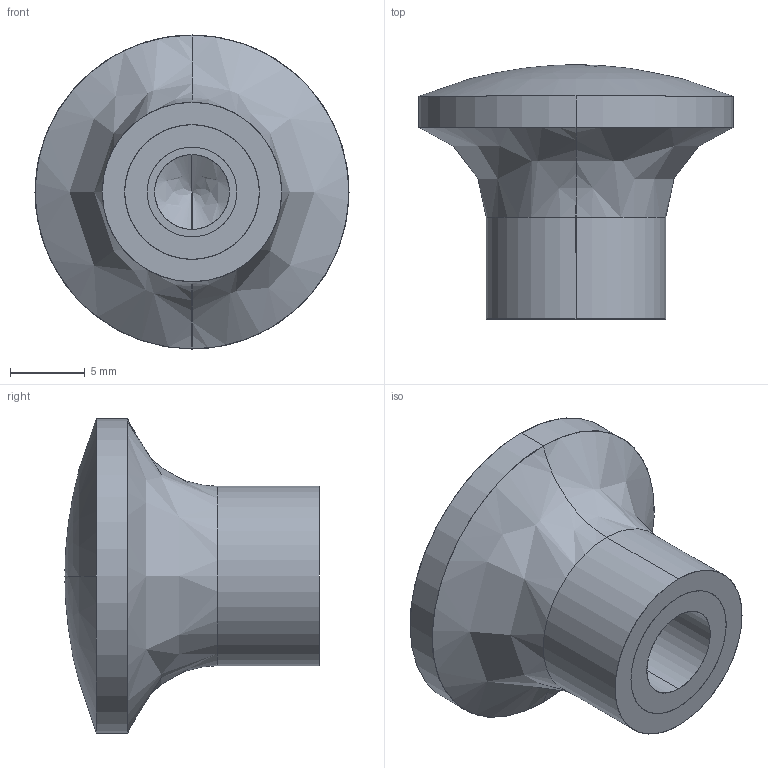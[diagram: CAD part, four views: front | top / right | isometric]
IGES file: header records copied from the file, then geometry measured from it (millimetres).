
Start section: SolidWorks IGES file using analytic representation for surfaces
Global section: file name: C:\Users\IanO\Desktop\Temp File\Process pending\73200_v2\73200_v2_20171103_IGES\73200.W0021.igs; native system: SolidWorks 2017; preprocessor: SolidWorks 2017; author: IanO; date: 171103.111717; units: millimetre
Bounding box: 21 x 17 x 21 mm (x, y, z)
Surface area: 2400.3 mm2 (no closed solid volume)
Topology: 0 solids, 0 shells, 37 faces, 572 edges, 565 vertices
Faces by surface type: revolution 28, bspline 9
